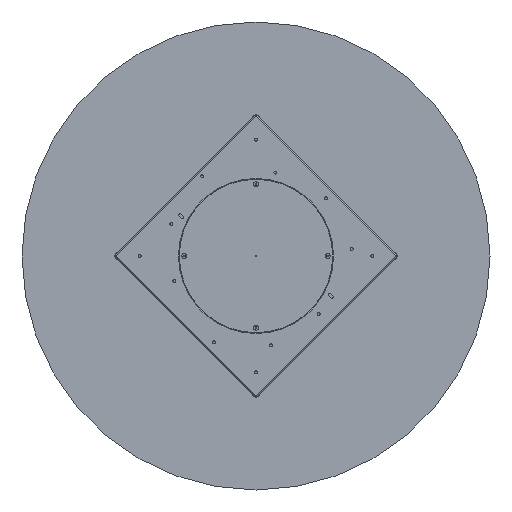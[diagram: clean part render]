
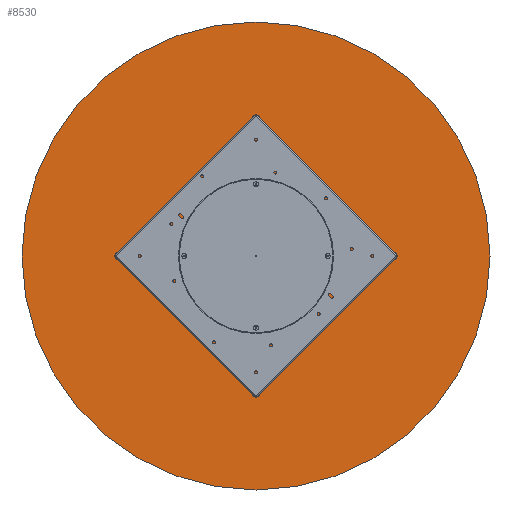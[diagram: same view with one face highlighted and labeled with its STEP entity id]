
A CAD part, front view. The second image highlights one B-rep face of the part: STEP entity #8530.
In plain terms, the highlighted planar face has unit normal (0, -1, 0).
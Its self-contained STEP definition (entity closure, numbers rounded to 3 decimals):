
#89 = CARTESIAN_POINT ( 'NONE',  ( 0., 0., 0. ) ) ;
#2025 = DIRECTION ( 'NONE',  ( 0., -1., 0. ) ) ;
#3978 = AXIS2_PLACEMENT_3D ( 'NONE', #15253, #2025, #10237 ) ;
#4480 = CIRCLE ( 'NONE', #3978, 800. ) ;
#4599 = CIRCLE ( 'NONE', #14839, 800. ) ;
#5236 = AXIS2_PLACEMENT_3D ( 'NONE', #9020, #6298, #11004 ) ;
#6298 = DIRECTION ( 'NONE',  ( 0., -1., 0. ) ) ;
#6930 = VERTEX_POINT ( 'NONE', #10368 ) ;
#6980 = DIRECTION ( 'NONE',  ( 0., -1., 0. ) ) ;
#8231 = EDGE_CURVE ( 'NONE', #15133, #6930, #4480, .T. ) ;
#8530 = ADVANCED_FACE ( 'NONE', ( #12259 ), #9756, .T. ) ;
#9020 = CARTESIAN_POINT ( 'NONE',  ( 0., 0., 0. ) ) ;
#9643 = DIRECTION ( 'NONE',  ( 0., 0., -1. ) ) ;
#9756 = PLANE ( 'NONE',  #5236 ) ;
#10237 = DIRECTION ( 'NONE',  ( 0., 0., -1. ) ) ;
#10368 = CARTESIAN_POINT ( 'NONE',  ( 0., 0., 800. ) ) ;
#11004 = DIRECTION ( 'NONE',  ( 0., 0., -1. ) ) ;
#12022 = ORIENTED_EDGE ( 'NONE', *, *, #12288, .T. ) ;
#12259 = FACE_OUTER_BOUND ( 'NONE', #14960, .T. ) ;
#12288 = EDGE_CURVE ( 'NONE', #6930, #15133, #4599, .T. ) ;
#12725 = CARTESIAN_POINT ( 'NONE',  ( 0., 0., -800. ) ) ;
#14839 = AXIS2_PLACEMENT_3D ( 'NONE', #89, #6980, #9643 ) ;
#14960 = EDGE_LOOP ( 'NONE', ( #15389, #12022 ) ) ;
#15133 = VERTEX_POINT ( 'NONE', #12725 ) ;
#15253 = CARTESIAN_POINT ( 'NONE',  ( 0., 0., 0. ) ) ;
#15389 = ORIENTED_EDGE ( 'NONE', *, *, #8231, .T. ) ;
